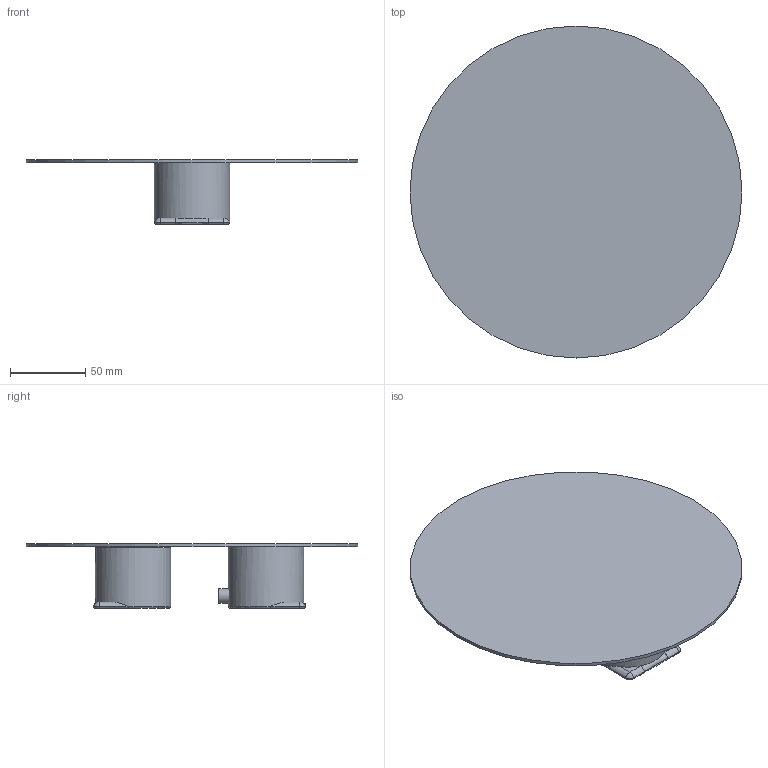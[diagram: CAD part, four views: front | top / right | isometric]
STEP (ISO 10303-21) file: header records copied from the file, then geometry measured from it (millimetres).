
FILE_DESCRIPTION (( 'STEP AP203' ), '1' );
FILE_NAME ('802604 x architetti.STEP', '2023-07-04T06:47:45', ( '' ), ( '' ), 'SwSTEP 2.0', 'SolidWorks 2020', '' );
FILE_SCHEMA (( 'CONFIG_CONTROL_DESIGN' ));
Length unit declared in the file: millimetre
Products named in the file (1): 802604 x architetti
Bounding box: 220 x 220 x 42.5 mm (x, y, z)
Surface area: 98507.6 mm2 (no closed solid volume)
Topology: 0 solids, 6 shells, 70 faces, 146 edges, 91 vertices
Faces by surface type: cylinder 30, plane 23, torus 6, bspline 4, sphere 4, cone 3
Full cylindrical faces by diameter (mm): 2.5 x2, 2.55 x1, 3.1 x1, 7.6 x1, 9.6 x1, 11.5 x1, 50 x2, 220 x1
Entity records: 2855 total; most frequent: CARTESIAN_POINT 1395, DIRECTION 300, ORIENTED_EDGE 251, AXIS2_PLACEMENT_3D 130, EDGE_CURVE 126, EDGE_LOOP 89, VERTEX_POINT 84, FACE_OUTER_BOUND 80
